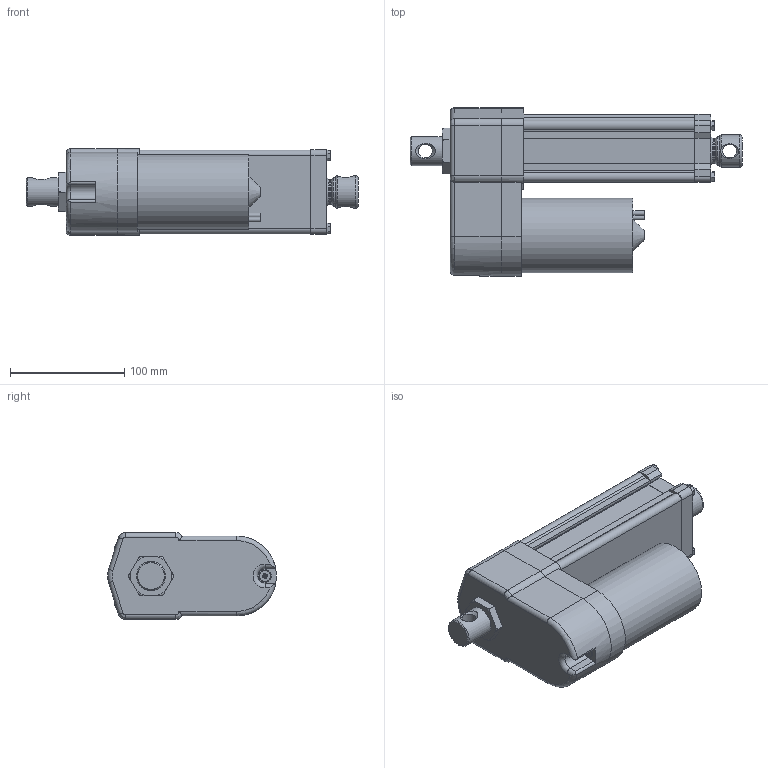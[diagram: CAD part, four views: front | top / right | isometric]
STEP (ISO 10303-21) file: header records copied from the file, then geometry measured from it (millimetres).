
FILE_DESCRIPTION( ( 'STEP AP203' ), '1' );
FILE_NAME( 'p:/temp/worker_283/temp/exporttempdir_4564_529_qJL2A/format_0/DA12-05A65M10M0N-AMM.stp', '2020-04-12T13:15:30', ( 'License CC BY-ND 4.0' ), ( 'CADENAS' ), ' ', 'PARTsolutions', ' ' );
FILE_SCHEMA( ( 'CONFIG_CONTROL_DESIGN' ) );
Length unit declared in the file: millimetre
Products named in the file (8): DA12-05A65M10M0N-AMM; _ELECTRAK-LA14-DA12-05A65MM0N-10M-EU-REAR; _Electrak-10-EU-RA-D602700; _D602768eu; _ELECTRAK-LA14-DA12--MOTOR; _DA12-05A65M10M0NAMMtube; _ELECTRAK-LA14-DA12--10-PLATE; _ELECTRAK-LA14-DA12--1005A65MNM-ROD
Assembly tree (7 placements, depth 2):
  DA12-05A65M10M0N-AMM
    _ELECTRAK-LA14-DA12-05A65MM0N-10M-EU-REAR
    _Electrak-10-EU-RA-D602700
    _D602768eu
    _ELECTRAK-LA14-DA12--MOTOR
    _DA12-05A65M10M0NAMMtube
    _ELECTRAK-LA14-DA12--10-PLATE
    _ELECTRAK-LA14-DA12--1005A65MNM-ROD
Bounding box: 291.05 x 148 x 76.2 mm (x, y, z)
Volume: 1274605.8 mm3; surface area: 230045.7 mm2
Topology: 7 solids, 8 shells, 378 faces, 942 edges, 610 vertices
Faces by surface type: plane 183, cylinder 131, cone 46, torus 14, bspline 4
Full cylindrical faces by diameter (mm): 4 x2, 4.126 x1, 4.8 x6, 5 x5, 5.6 x4, 7.878 x4, 9.398 x1, 12.2 x2, 16 x1, 21.8 x1, 25.2 x1, 25.4 x1, 26.24 x1, 28.5 x1, 28.6 x2, 47.625 x1, 65.3 x1
Entity records: 11834 total; most frequent: CARTESIAN_POINT 2729, DIRECTION 1869, ORIENTED_EDGE 1744, EDGE_CURVE 872, AXIS2_PLACEMENT_3D 702, VERTEX_POINT 602, EDGE_LOOP 485, LINE 465
